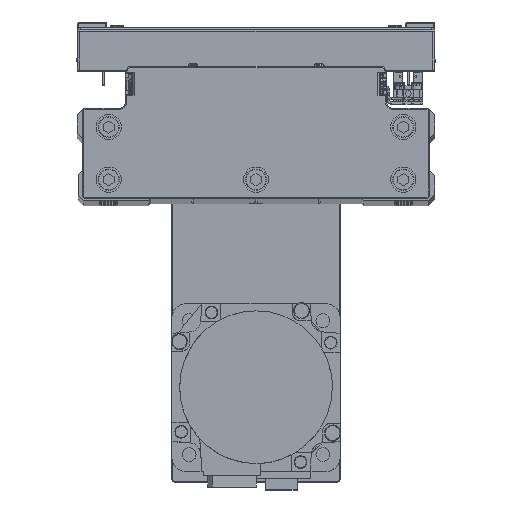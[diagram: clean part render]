
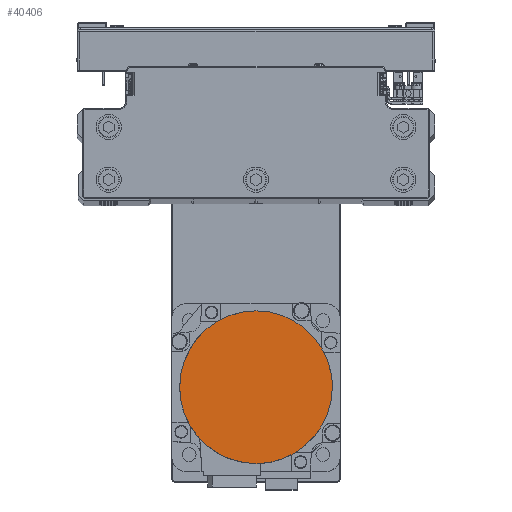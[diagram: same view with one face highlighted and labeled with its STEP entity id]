
A CAD part, top view. The second image highlights one B-rep face of the part: STEP entity #40406.
In plain terms, the highlighted planar face has unit normal (0, 0, 1) as drawn and (0, 0, -1) by its records, which use the part's own axes.
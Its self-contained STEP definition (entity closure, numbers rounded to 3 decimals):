
#464 = CARTESIAN_POINT ( 'NONE',  ( -36.3, -2.376, -122.2 ) ) ;
#483 = VERTEX_POINT ( 'NONE', #11736 ) ;
#684 = CARTESIAN_POINT ( 'NONE',  ( -9.412, -35.139, -122.2 ) ) ;
#1304 = B_SPLINE_CURVE_WITH_KNOTS ( 'NONE', 3,
 ( #31909, #464, #14487, #28476, #42504, #11021, #25005, #39041, #7565, #21560, #35599, #4135, #18144, #32135, #684, #14703, #28695, #42722 ),
 .UNSPECIFIED., .F., .F.,
 ( 4, 2, 2, 2, 2, 2, 2, 2, 4 ),
 ( 0., 0.125, 0.25, 0.375, 0.5, 0.625, 0.75, 0.875, 1. ),
 .UNSPECIFIED. ) ;
#2295 = CARTESIAN_POINT ( 'NONE',  ( 0., 36.3, -122.2 ) ) ;
#2936 = VERTEX_POINT ( 'NONE', #41347 ) ;
#3137 = CARTESIAN_POINT ( 'NONE',  ( -34.446, 11.696, -122.2 ) ) ;
#3395 = PLANE ( 'NONE',  #22375 ) ;
#4135 = CARTESIAN_POINT ( 'NONE',  ( -18.192, -31.502, -122.2 ) ) ;
#4447 = EDGE_LOOP ( 'NONE', ( #44563, #42646, #23490, #38550 ) ) ;
#5980 = CARTESIAN_POINT ( 'NONE',  ( 0., 0., -122.2 ) ) ;
#6591 = CARTESIAN_POINT ( 'NONE',  ( -28.862, 22.143, -122.2 ) ) ;
#7565 = CARTESIAN_POINT ( 'NONE',  ( -27.348, -23.988, -122.2 ) ) ;
#10049 = CARTESIAN_POINT ( 'NONE',  ( -22.143, 28.862, -122.2 ) ) ;
#10401 = CARTESIAN_POINT ( 'NONE',  ( 0., 0., -122.2 ) ) ;
#11021 = CARTESIAN_POINT ( 'NONE',  ( -32.628, -16.086, -122.2 ) ) ;
#11166 = EDGE_CURVE ( 'NONE', #483, #16653, #31391, .T. ) ;
#11608 = AXIS2_PLACEMENT_3D ( 'NONE', #10401, #24398, #38437 ) ;
#11736 = CARTESIAN_POINT ( 'NONE',  ( 0., -36.3, -122.2 ) ) ;
#12893 = CARTESIAN_POINT ( 'NONE',  ( -11.696, 34.446, -122.2 ) ) ;
#13737 = CARTESIAN_POINT ( 'NONE',  ( -36.3, 0., -122.2 ) ) ;
#14487 = CARTESIAN_POINT ( 'NONE',  ( -36.066, -4.752, -122.2 ) ) ;
#14703 = CARTESIAN_POINT ( 'NONE',  ( -4.752, -36.066, -122.2 ) ) ;
#15503 = CARTESIAN_POINT ( 'NONE',  ( 36.3, 0., -122.2 ) ) ;
#16147 = EDGE_CURVE ( 'NONE', #2936, #483, #1304, .T. ) ;
#16310 = CARTESIAN_POINT ( 'NONE',  ( -2.376, 36.3, -122.2 ) ) ;
#16653 = VERTEX_POINT ( 'NONE', #15503 ) ;
#17159 = CARTESIAN_POINT ( 'NONE',  ( -35.139, 9.412, -122.2 ) ) ;
#17291 = CARTESIAN_POINT ( 'NONE',  ( 0., 36.3, -122.2 ) ) ;
#17406 = CARTESIAN_POINT ( 'NONE',  ( 0., 0., -122.2 ) ) ;
#18144 = CARTESIAN_POINT ( 'NONE',  ( -16.086, -32.628, -122.2 ) ) ;
#19980 = DIRECTION ( 'NONE',  ( 0., 0., 1. ) ) ;
#20586 = CARTESIAN_POINT ( 'NONE',  ( -31.502, 18.192, -122.2 ) ) ;
#21560 = CARTESIAN_POINT ( 'NONE',  ( -23.988, -27.348, -122.2 ) ) ;
#22375 = AXIS2_PLACEMENT_3D ( 'NONE', #17406, #31405, #43635 ) ;
#23157 = AXIS2_PLACEMENT_3D ( 'NONE', #5980, #19980, #33998 ) ;
#23490 = ORIENTED_EDGE ( 'NONE', *, *, #38811, .F. ) ;
#24037 = CARTESIAN_POINT ( 'NONE',  ( -23.988, 27.348, -122.2 ) ) ;
#24398 = DIRECTION ( 'NONE',  ( 0., 0., 1. ) ) ;
#25005 = CARTESIAN_POINT ( 'NONE',  ( -31.502, -18.192, -122.2 ) ) ;
#26882 = CARTESIAN_POINT ( 'NONE',  ( -16.086, 32.628, -122.2 ) ) ;
#28476 = CARTESIAN_POINT ( 'NONE',  ( -35.139, -9.412, -122.2 ) ) ;
#28695 = CARTESIAN_POINT ( 'NONE',  ( -2.376, -36.3, -122.2 ) ) ;
#30310 = CARTESIAN_POINT ( 'NONE',  ( -4.752, 36.066, -122.2 ) ) ;
#31167 = CARTESIAN_POINT ( 'NONE',  ( -36.066, 4.752, -122.2 ) ) ;
#31316 = VERTEX_POINT ( 'NONE', #17291 ) ;
#31391 = CIRCLE ( 'NONE', #11608, 36.3 ) ;
#31405 = DIRECTION ( 'NONE',  ( 0., 0., 1. ) ) ;
#31909 = CARTESIAN_POINT ( 'NONE',  ( -36.3, 0., -122.2 ) ) ;
#32135 = CARTESIAN_POINT ( 'NONE',  ( -11.696, -34.446, -122.2 ) ) ;
#33998 = DIRECTION ( 'NONE',  ( -1., 0., 0. ) ) ;
#34598 = CARTESIAN_POINT ( 'NONE',  ( -32.628, 16.086, -122.2 ) ) ;
#34863 = FACE_OUTER_BOUND ( 'NONE', #4447, .T. ) ;
#35599 = CARTESIAN_POINT ( 'NONE',  ( -22.143, -28.862, -122.2 ) ) ;
#38065 = CARTESIAN_POINT ( 'NONE',  ( -27.348, 23.988, -122.2 ) ) ;
#38437 = DIRECTION ( 'NONE',  ( -1., 0., 0. ) ) ;
#38550 = ORIENTED_EDGE ( 'NONE', *, *, #41129, .F. ) ;
#38811 = EDGE_CURVE ( 'NONE', #31316, #2936, #44677, .T. ) ;
#39041 = CARTESIAN_POINT ( 'NONE',  ( -28.862, -22.143, -122.2 ) ) ;
#40406 = ADVANCED_FACE ( 'NONE', ( #34863 ), #3395, .F. ) ;
#40911 = CARTESIAN_POINT ( 'NONE',  ( -18.192, 31.502, -122.2 ) ) ;
#41129 = EDGE_CURVE ( 'NONE', #16653, #31316, #43005, .T. ) ;
#41347 = CARTESIAN_POINT ( 'NONE',  ( -36.3, 0., -122.2 ) ) ;
#42504 = CARTESIAN_POINT ( 'NONE',  ( -34.446, -11.696, -122.2 ) ) ;
#42646 = ORIENTED_EDGE ( 'NONE', *, *, #16147, .F. ) ;
#42722 = CARTESIAN_POINT ( 'NONE',  ( 0., -36.3, -122.2 ) ) ;
#43005 = CIRCLE ( 'NONE', #23157, 36.3 ) ;
#43635 = DIRECTION ( 'NONE',  ( 1., 0., 0. ) ) ;
#44364 = CARTESIAN_POINT ( 'NONE',  ( -9.412, 35.139, -122.2 ) ) ;
#44563 = ORIENTED_EDGE ( 'NONE', *, *, #11166, .F. ) ;
#44677 = B_SPLINE_CURVE_WITH_KNOTS ( 'NONE', 3,
 ( #2295, #16310, #30310, #44364, #12893, #26882, #40911, #10049, #24037, #38065, #6591, #20586, #34598, #3137, #17159, #31167, #45210, #13737 ),
 .UNSPECIFIED., .F., .F.,
 ( 4, 2, 2, 2, 2, 2, 2, 2, 4 ),
 ( 0., 0.125, 0.25, 0.375, 0.5, 0.625, 0.75, 0.875, 1. ),
 .UNSPECIFIED. ) ;
#45210 = CARTESIAN_POINT ( 'NONE',  ( -36.3, 2.376, -122.2 ) ) ;
